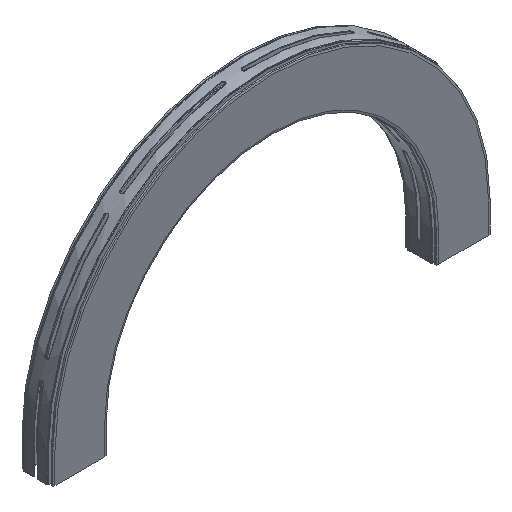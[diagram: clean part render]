
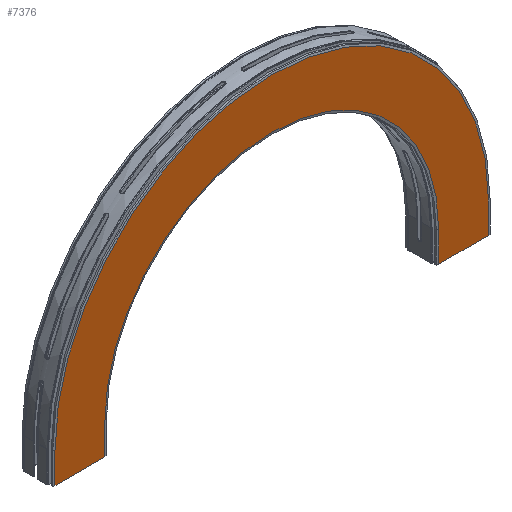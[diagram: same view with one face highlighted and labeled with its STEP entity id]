
A CAD part, isometric view. The second image highlights one B-rep face of the part: STEP entity #7376.
In plain terms, the highlighted planar face has unit normal (0, -1, 0).
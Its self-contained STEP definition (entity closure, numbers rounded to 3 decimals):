
#7133=CARTESIAN_POINT('',(104.,-74.,0.0));
#7134=VERTEX_POINT('',#7133);
#7141=CARTESIAN_POINT('',(-26.,-74.,0.0));
#7142=VERTEX_POINT('',#7141);
#7143=CARTESIAN_POINT('',(-26.,-74.,0.0));
#7144=DIRECTION('',(1.0,0.0,0.0));
#7145=VECTOR('',#7144,130.);
#7146=LINE('',#7143,#7145);
#7147=EDGE_CURVE('',#7142,#7134,#7146,.T.);
#7202=CARTESIAN_POINT('',(-26.,-74.,80.0));
#7203=VERTEX_POINT('',#7202);
#7212=CARTESIAN_POINT('',(-26.,-74.,0.0));
#7213=DIRECTION('',(0.0,0.0,1.0));
#7214=VECTOR('',#7213,80.0);
#7215=LINE('',#7212,#7214);
#7216=EDGE_CURVE('',#7142,#7203,#7215,.T.);
#7226=CARTESIAN_POINT('',(104.,-74.,80.0));
#7227=VERTEX_POINT('',#7226);
#7236=CARTESIAN_POINT('',(104.,-74.,0.0));
#7237=DIRECTION('',(0.0,0.0,1.0));
#7238=VECTOR('',#7237,80.0);
#7239=LINE('',#7236,#7238);
#7240=EDGE_CURVE('',#7134,#7227,#7239,.T.);
#7259=CARTESIAN_POINT('',(-896.,-74.,80.0));
#7260=VERTEX_POINT('',#7259);
#7275=CARTESIAN_POINT('',(-461.,-74.,80.0));
#7276=DIRECTION('',(0.0,-1.0,0.0));
#7277=DIRECTION('',(1.0,0.0,0.0));
#7278=AXIS2_PLACEMENT_3D('',#7275,#7276,#7277);
#7279=CIRCLE('',#7278,435.);
#7280=EDGE_CURVE('',#7203,#7260,#7279,.T.);
#7334=CARTESIAN_POINT('',(-1026.,-74.,1730.796));
#7335=DIRECTION('',(0.0,-1.0,0.0));
#7336=DIRECTION('',(0.0,0.0,1.0));
#7337=AXIS2_PLACEMENT_3D('',#7334,#7335,#7336);
#7338=PLANE('',#7337);
#7339=CARTESIAN_POINT('',(-1026.,-74.,0.0));
#7340=VERTEX_POINT('',#7339);
#7341=CARTESIAN_POINT('',(-896.,-74.,0.));
#7342=VERTEX_POINT('',#7341);
#7343=CARTESIAN_POINT('',(-1026.,-74.,0.));
#7344=DIRECTION('',(1.0,0.0,0.0));
#7345=VECTOR('',#7344,130.0);
#7346=LINE('',#7343,#7345);
#7347=EDGE_CURVE('',#7340,#7342,#7346,.T.);
#7348=ORIENTED_EDGE('',*,*,#7347,.T.);
#7349=CARTESIAN_POINT('',(-896.,-74.,80.0));
#7350=DIRECTION('',(0.0,0.0,-1.0));
#7351=VECTOR('',#7350,80.0);
#7352=LINE('',#7349,#7351);
#7353=EDGE_CURVE('',#7260,#7342,#7352,.T.);
#7354=ORIENTED_EDGE('',*,*,#7353,.F.);
#7355=ORIENTED_EDGE('',*,*,#7280,.F.);
#7356=ORIENTED_EDGE('',*,*,#7216,.F.);
#7357=ORIENTED_EDGE('',*,*,#7147,.T.);
#7358=ORIENTED_EDGE('',*,*,#7240,.T.);
#7359=CARTESIAN_POINT('',(-1026.,-74.,80.0));
#7360=VERTEX_POINT('',#7359);
#7361=CARTESIAN_POINT('',(-461.,-74.,80.0));
#7362=DIRECTION('',(0.0,-1.0,0.0));
#7363=DIRECTION('',(1.0,0.0,0.0));
#7364=AXIS2_PLACEMENT_3D('',#7361,#7362,#7363);
#7365=CIRCLE('',#7364,565.);
#7366=EDGE_CURVE('',#7227,#7360,#7365,.T.);
#7367=ORIENTED_EDGE('',*,*,#7366,.T.);
#7368=CARTESIAN_POINT('',(-1026.,-74.,80.0));
#7369=DIRECTION('',(0.0,0.0,-1.0));
#7370=VECTOR('',#7369,80.0);
#7371=LINE('',#7368,#7370);
#7372=EDGE_CURVE('',#7360,#7340,#7371,.T.);
#7373=ORIENTED_EDGE('',*,*,#7372,.T.);
#7374=EDGE_LOOP('',(#7348,#7354,#7355,#7356,#7357,#7358,#7367,#7373));
#7375=FACE_OUTER_BOUND('',#7374,.T.);
#7376=ADVANCED_FACE('',(#7375),#7338,.T.);
